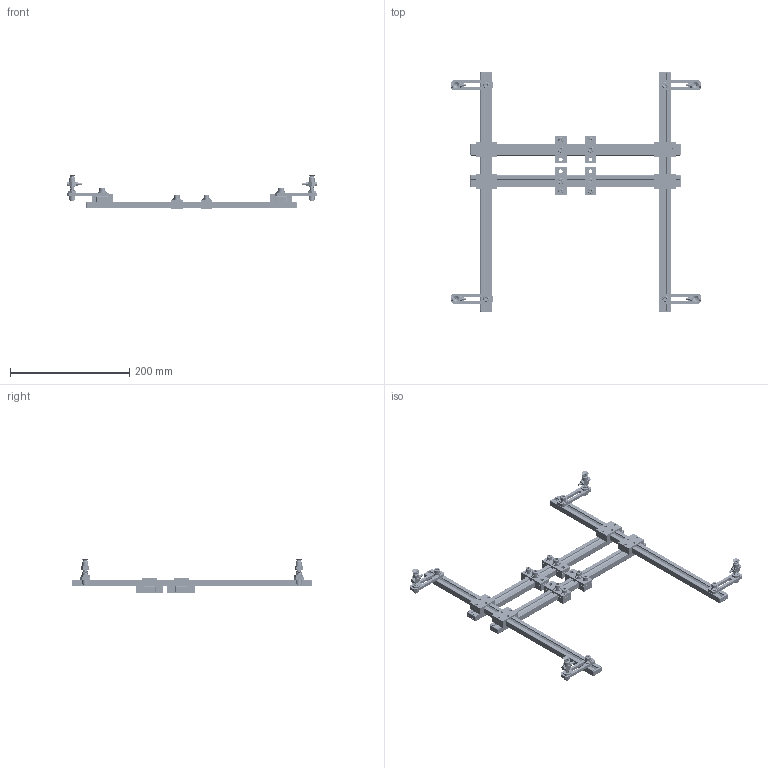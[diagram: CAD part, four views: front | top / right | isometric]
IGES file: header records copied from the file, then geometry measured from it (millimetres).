
Start section: SolidWorks IGES file using analytic representation for surfaces
Global section: file name: E:\EFCKishi\基礎フレーム\EFCK5600\IGES\EFCK-5600.IGS; native system: SolidWorks 2006 by SolidWorks Corporation; preprocessor: SolidWorks 2006 by SolidWorks Corporation; author: CAD58; date: 080913.090643; units: millimetre
Bounding box: 420.56 x 404 x 58.5 mm (x, y, z)
Surface area: 248447.2 mm2 (no closed solid volume)
Topology: 0 solids, 0 shells, 6668 faces, 50528 edges, 50456 vertices
Faces by surface type: bspline 5932, revolution 736
